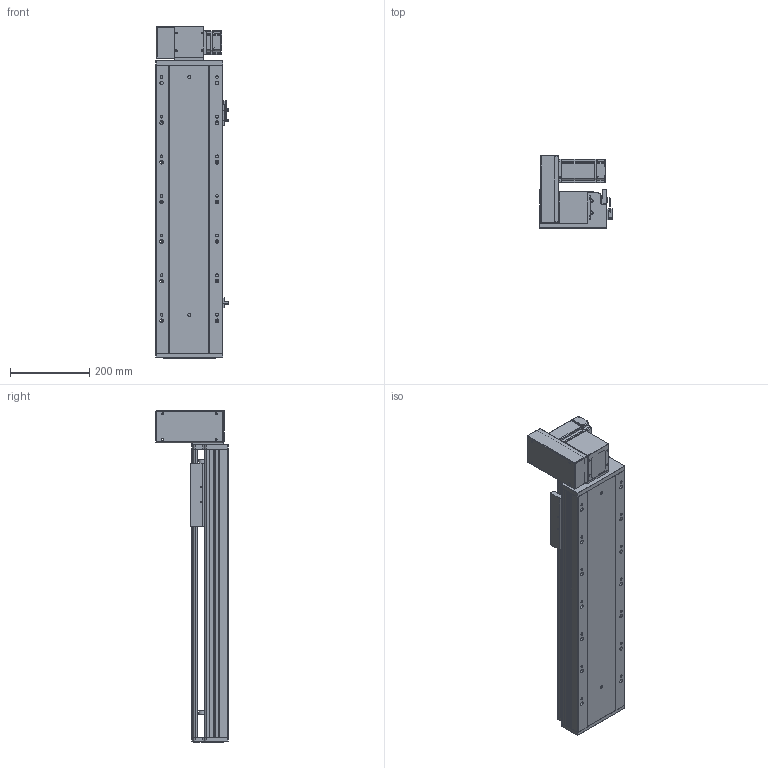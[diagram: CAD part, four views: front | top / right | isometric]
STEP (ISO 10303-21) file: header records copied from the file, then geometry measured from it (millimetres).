
FILE_DESCRIPTION (( 'STEP AP203' ), '1' );
FILE_NAME ('RY170-T-300-UL-P400W.SLDASM_450.step', '2021-03-02T02:12:09', ( '盈信电脑' ), ( '东莞市道滘镇水果街19号' ), 'SwSTEP 2.0', 'SolidWorks 2012', '' );
FILE_SCHEMA (( 'CONFIG_CONTROL_DESIGN' ));
Products named in the file (18): RY170-T-300-UL-P400W.SLDASM_450; RY170同步轮电机安装板(400W); 15; RY170肮祭謫萇儂欶; RY170-T蹟翐M4; 滅袉蝶18-10; RY120-T主同步轮轴承压盖; RY170-T肮祭謫裔啣; RY170-T肮祭湍揤踡輸2; RY170肮祭謫ヶ裔啣; RY170-T肮祭湍揤踡輸1; RY170翋肮祭謫釱; RY170外置感应片(200共用）; RY170綴裔啣; RY170-T-300肮祭謫倰第裔啣-DL_450; 覜茼ん672; RY170肮祭湍臏賑輸; RY170-T-300肮祭謫倰第菁釱-DL_450
Assembly tree (20 placements, depth 2):
  RY170-T-300-UL-P400W.SLDASM_450
    RY170-T-300肮祭謫倰第菁釱-DL_450
    RY170肮祭湍臏賑輸
    RY170-T-300肮祭謫倰第裔啣-DL_450
    RY170綴裔啣
    覜茼ん672  x3
    RY170外置感应片(200共用）
    RY170肮祭謫ヶ裔啣
    RY170翋肮祭謫釱
    RY170-T肮祭湍揤踡輸1
    RY170-T肮祭湍揤踡輸2
    RY170-T肮祭謫裔啣
    滅袉蝶18-10  x2
    RY120-T主同步轮轴承压盖
    RY170肮祭謫萇儂欶
    RY170同步轮电机安装板(400W)
    RY170-T蹟翐M4
    15
Bounding box: 183.7 x 184 x 838 mm (x, y, z)
Volume: 4576172.8 mm3; surface area: 1512237.8 mm2
Topology: 20 solids, 20 shells, 2485 faces, 6926 edges, 4459 vertices
Faces by surface type: plane 1145, cylinder 1110, cone 200, bspline 30
Entity records: 79168 total; most frequent: CARTESIAN_POINT 17564, ORIENTED_EDGE 12568, DIRECTION 12334, EDGE_CURVE 6284, AXIS2_PLACEMENT_3D 4311, VERTEX_POINT 4127, VECTOR 3712, LINE 3712
